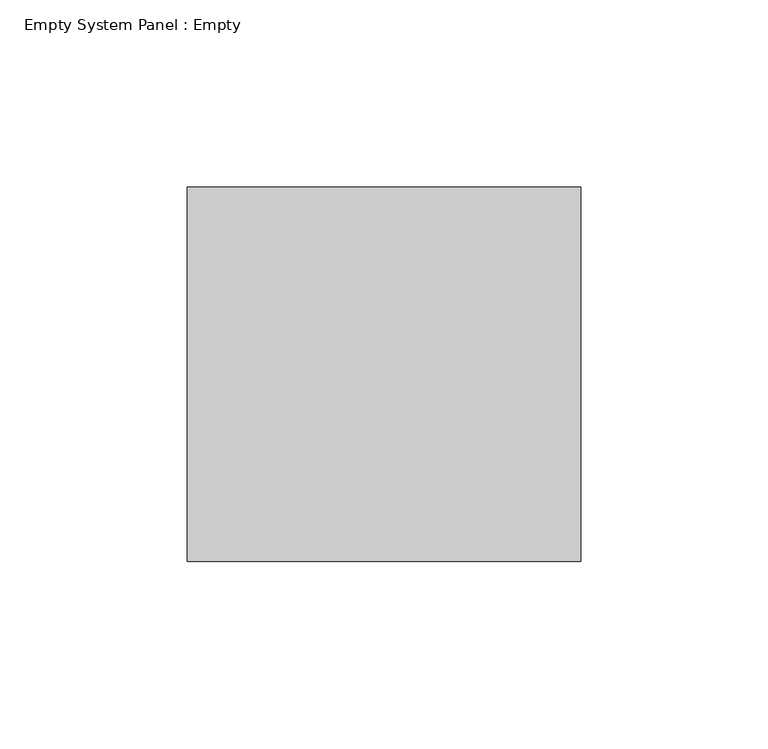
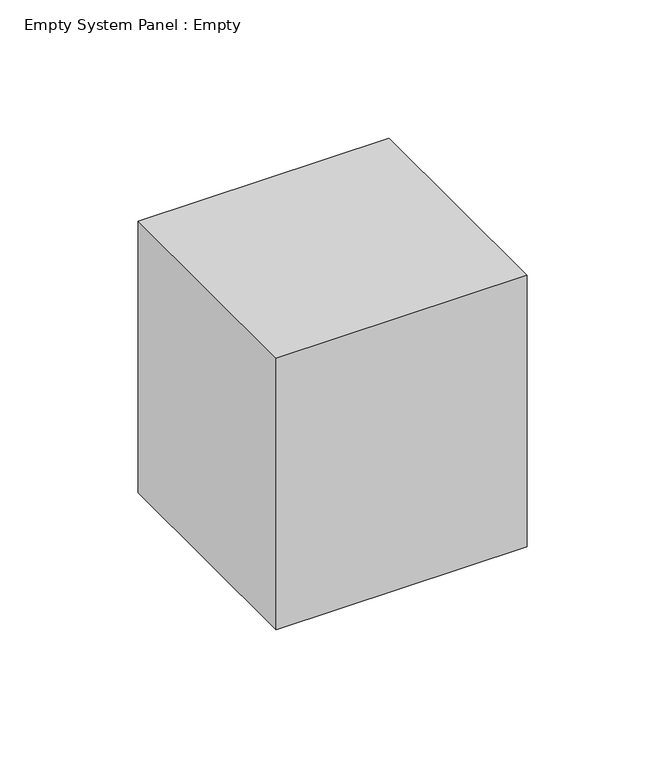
"""IFC4 building model written with IfcOpenShell, lengths in millimetres: plate geometry, Empty System Panel : Empty."""

from ifc_helpers import new_model, si_unit, origin, origin_with_axes, place, context, project, spatial, polyline, outline, extrude, source, transform, mapped, element, save


def empty_system_panel_empty_0cf761f0(model_context):
    return source(origin(), model_context, "Body", "SweptSolid", [
        extrude(outline(polyline([(52.4999998, 50.0), (-52.4999998, 50.0), (-52.4999998, 150.0), (52.4999998, 150.0), (52.4999998, 50.0)])), origin_with_axes(), (0.0, 0.0, 1.0), 120.0),
    ])


if __name__ == "__main__":
    model = new_model("IFC4")
    model_context = context("Model", 3, world=origin())
    ifc_project = project(units=[si_unit("LENGTHUNIT", "METRE", prefix="MILLI")], contexts=[model_context])
    site = spatial("IfcSite", under=ifc_project)
    building = spatial("IfcBuilding", under=site)
    placement = place(None, origin())
    empty_system_panel_empty_shape = empty_system_panel_empty_0cf761f0(model_context)
    element("IfcPlate", 1, ObjectType="Empty System Panel : Empty", at=placement, inside=building, context=model_context, shape_type="MappedRepresentation", body=[
        mapped(empty_system_panel_empty_shape, transform((0.0, 0.0, 0.0), x_axis=(1.0, 0.0, 0.0), y_axis=(0.0, 1.0, 0.0), z_axis=(0.0, 0.0, 1.0))),
    ])
    save(model, "model.ifc")
